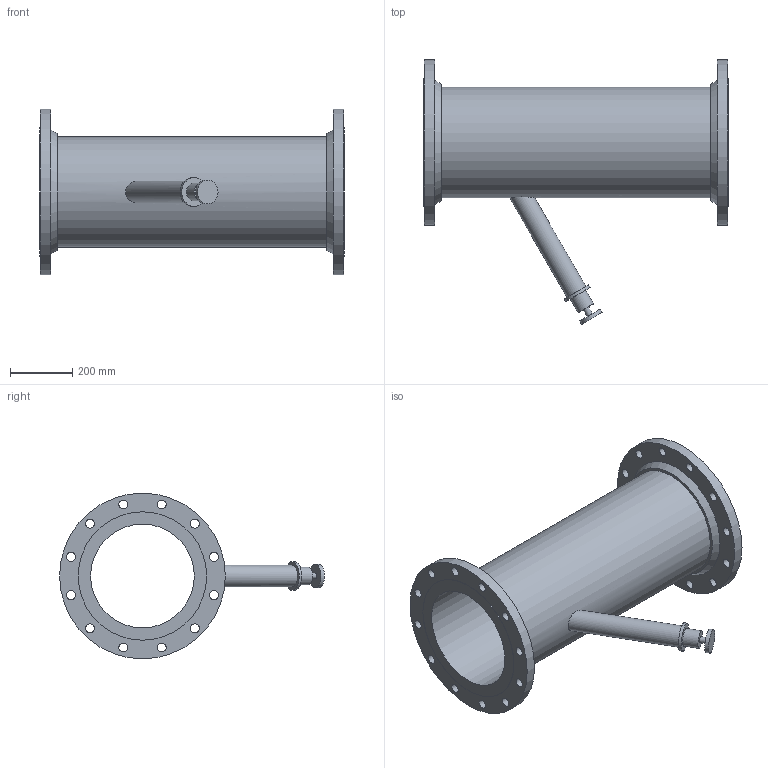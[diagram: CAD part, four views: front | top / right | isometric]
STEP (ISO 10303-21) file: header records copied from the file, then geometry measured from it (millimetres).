
FILE_DESCRIPTION(/* description */ ('VIC TA CIRCUIT BALANCING VALVE SERIES 788 (FLG)','CAx-IF Rec.Pracs.---Representation and Presentation of Product Manufacturing Information (PMI)---4.0---2014-10-13'),/* implementation_level */ '2;1');
FILE_NAME(/* name */ 'C:\Users\Vjadhav\AppData\Roaming\Autodesk\ApplicationPlugins\Back Up\Victaulic-IPS-TA Balancing Valve Series 788\Victaulic-IPS-TA Balancing Valve Series 788_14 (350).stp',/* time_stamp */ '2020-03-19T19:19:54+06:00',/* author */ ('cps_temp'),/* organization */ ('Victaulic'),/* preprocessor_version */ 'ST-DEVELOPER v17.2',/* originating_system */ 'Autodesk Inventor 2019',/* authorisation */ '');
FILE_SCHEMA (('AP242_MANAGED_MODEL_BASED_3D_ENGINEERING_MIM_LF { 1 0 10303 442 1 1 4 }'));
Length unit declared in the file: inch
Products named in the file (1): 788-14.0
Bounding box: 979.93 x 851.41 x 532.89 mm (x, y, z)
Volume: 22064112.2 mm3; surface area: 2808102 mm2
Topology: 1 solids, 1 shells, 50 faces, 139 edges, 101 vertices
Faces by surface type: cylinder 35, plane 13, cone 2
Full cylindrical faces by diameter (mm): 19.05 x1, 28.702 x24, 57.15 x1, 69.85 x1, 76.2 x1, 92.05 x1, 333.4 x1, 355.6 x1, 412.75 x2, 532.892 x2
Entity records: 2044 total; most frequent: CARTESIAN_POINT 375, DIRECTION 362, ORIENTED_EDGE 278, AXIS2_PLACEMENT_3D 162, EDGE_CURVE 139, EDGE_LOOP 110, VERTEX_POINT 101, CIRCLE 98
